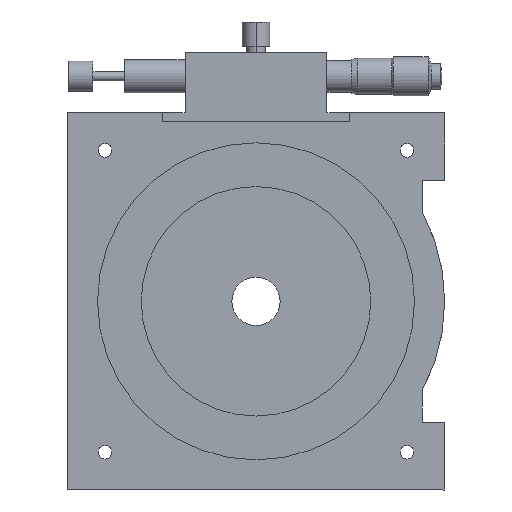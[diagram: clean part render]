
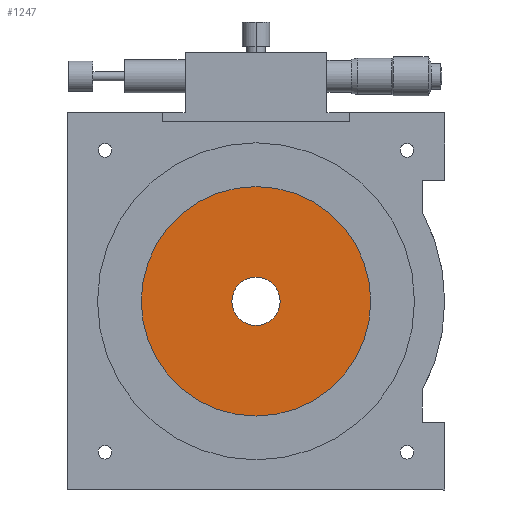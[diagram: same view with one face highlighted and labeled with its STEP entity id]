
A CAD part, front view. The second image highlights one B-rep face of the part: STEP entity #1247.
In plain terms, the highlighted planar face has unit normal (0, -1, 0) as drawn and (0, 0, -1) by its records, which use the part's own axes.
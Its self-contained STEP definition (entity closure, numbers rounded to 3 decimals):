
#439 = AXIS2_PLACEMENT_3D ( 'NONE', #5160, #5608, #958 ) ;
#470 = EDGE_LOOP ( 'NONE', ( #4661, #6279 ) ) ;
#590 = VERTEX_POINT ( 'NONE', #2245 ) ;
#958 = DIRECTION ( 'NONE',  ( 0., -1., 0. ) ) ;
#1091 = CIRCLE ( 'NONE', #1200, 45. ) ;
#1200 = AXIS2_PLACEMENT_3D ( 'NONE', #2672, #3142, #5218 ) ;
#1247 = ADVANCED_FACE ( 'NONE', ( #3542, #2116 ), #5270, .T. ) ;
#2105 = ORIENTED_EDGE ( 'NONE', *, *, #2822, .T. ) ;
#2116 = FACE_OUTER_BOUND ( 'NONE', #4127, .T. ) ;
#2245 = CARTESIAN_POINT ( 'NONE',  ( 0., -45., 2. ) ) ;
#2264 = CARTESIAN_POINT ( 'NONE',  ( 0., -8., 2. ) ) ;
#2385 = CARTESIAN_POINT ( 'NONE',  ( 0., 0., 2. ) ) ;
#2672 = CARTESIAN_POINT ( 'NONE',  ( 0., 0., 2. ) ) ;
#2765 = EDGE_CURVE ( 'NONE', #6632, #4854, #3678, .T. ) ;
#2770 = CARTESIAN_POINT ( 'NONE',  ( 0., 45., 2. ) ) ;
#2822 = EDGE_CURVE ( 'NONE', #590, #3954, #2829, .T. ) ;
#2829 = CIRCLE ( 'NONE', #4763, 45. ) ;
#3142 = DIRECTION ( 'NONE',  ( 0., 0., -1. ) ) ;
#3263 = DIRECTION ( 'NONE',  ( 0., 1., 0. ) ) ;
#3290 = CIRCLE ( 'NONE', #6446, 8. ) ;
#3397 = EDGE_CURVE ( 'NONE', #3954, #590, #1091, .T. ) ;
#3542 = FACE_BOUND ( 'NONE', #470, .T. ) ;
#3678 = CIRCLE ( 'NONE', #439, 8. ) ;
#3954 = VERTEX_POINT ( 'NONE', #2770 ) ;
#4127 = EDGE_LOOP ( 'NONE', ( #5670, #2105 ) ) ;
#4600 = EDGE_CURVE ( 'NONE', #4854, #6632, #3290, .T. ) ;
#4661 = ORIENTED_EDGE ( 'NONE', *, *, #2765, .T. ) ;
#4763 = AXIS2_PLACEMENT_3D ( 'NONE', #6179, #4967, #5003 ) ;
#4795 = DIRECTION ( 'NONE',  ( 0., 0., -1. ) ) ;
#4854 = VERTEX_POINT ( 'NONE', #5931 ) ;
#4967 = DIRECTION ( 'NONE',  ( 0., 0., -1. ) ) ;
#4975 = AXIS2_PLACEMENT_3D ( 'NONE', #5853, #4795, #3263 ) ;
#5003 = DIRECTION ( 'NONE',  ( 0., 1., 0. ) ) ;
#5160 = CARTESIAN_POINT ( 'NONE',  ( 0., 0., 2. ) ) ;
#5218 = DIRECTION ( 'NONE',  ( 0., 1., 0. ) ) ;
#5270 = PLANE ( 'NONE',  #4975 ) ;
#5608 = DIRECTION ( 'NONE',  ( 0., 0., 1. ) ) ;
#5670 = ORIENTED_EDGE ( 'NONE', *, *, #3397, .T. ) ;
#5853 = CARTESIAN_POINT ( 'NONE',  ( 45., 0., 2. ) ) ;
#5931 = CARTESIAN_POINT ( 'NONE',  ( 0., 8., 2. ) ) ;
#6179 = CARTESIAN_POINT ( 'NONE',  ( 0., 0., 2. ) ) ;
#6279 = ORIENTED_EDGE ( 'NONE', *, *, #4600, .T. ) ;
#6446 = AXIS2_PLACEMENT_3D ( 'NONE', #2385, #6561, #6528 ) ;
#6528 = DIRECTION ( 'NONE',  ( 0., -1., 0. ) ) ;
#6561 = DIRECTION ( 'NONE',  ( 0., 0., 1. ) ) ;
#6632 = VERTEX_POINT ( 'NONE', #2264 ) ;
